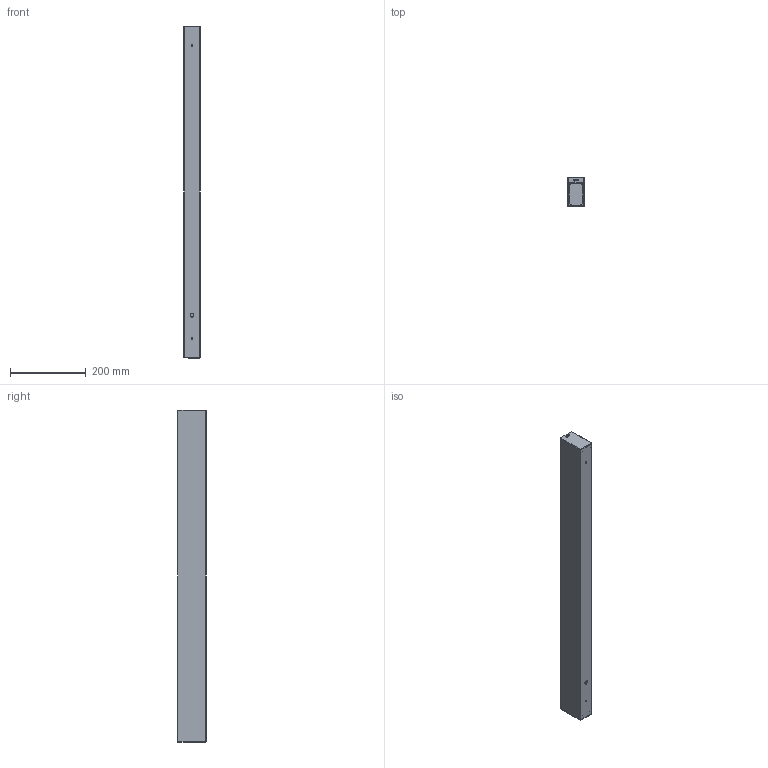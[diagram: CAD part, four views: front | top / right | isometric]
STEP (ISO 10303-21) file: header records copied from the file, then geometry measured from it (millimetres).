
FILE_DESCRIPTION (( 'STEP AP214' ), '1' );
FILE_NAME ('LINE RP-RF 18.STEP', '2017-08-23T09:37:43', ( 'Ofitecnic3' ), ( 'Microsoft' ), 'SwSTEP 2.0', 'SolidWorks 2016', '' );
FILE_SCHEMA (( 'AUTOMOTIVE_DESIGN' ));
Length unit declared in the file: millimetre
Products named in the file (4): Difusor plástico-BIM_LED-870mm; Tapa (LineR)-BIM; Perfil_extrusion (LineR)-BIM_LR2016-870; LINE RP-RF 18
Assembly tree (4 placements, depth 2):
  LINE RP-RF 18
    Perfil_extrusion (LineR)-BIM_LR2016-870
    Tapa (LineR)-BIM  x2
    Difusor plástico-BIM_LED-870mm
Bounding box: 42.5 x 74.75 x 875 mm (x, y, z)
Volume: 384991.3 mm3; surface area: 432131.8 mm2
Topology: 4 solids, 4 shells, 425 faces, 1049 edges, 650 vertices
Faces by surface type: plane 182, cylinder 157, bspline 82, sphere 4
Entity records: 8685 total; most frequent: CARTESIAN_POINT 3302, ORIENTED_EDGE 1180, DIRECTION 969, EDGE_CURVE 590, VERTEX_POINT 370, VECTOR 355, LINE 355, AXIS2_PLACEMENT_3D 307
